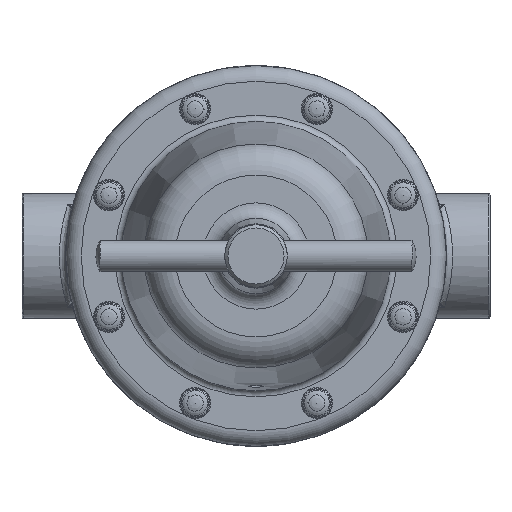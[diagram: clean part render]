
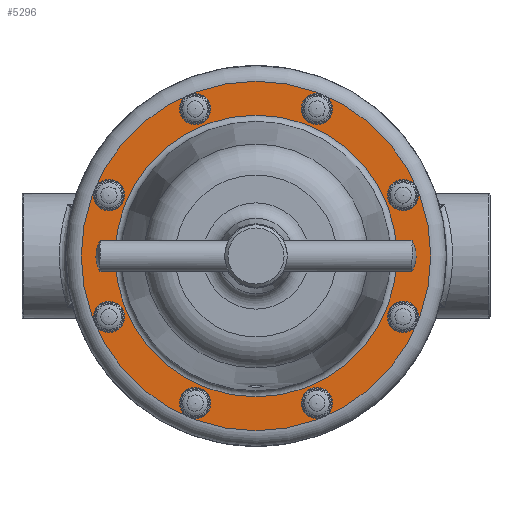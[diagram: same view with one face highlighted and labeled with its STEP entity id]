
A CAD part, left-side view. The second image highlights one B-rep face of the part: STEP entity #5296.
In plain terms, the highlighted planar face has unit normal (-1, 0, 0) as drawn and (0, 1, 0) by its records, which use the part's own axes.
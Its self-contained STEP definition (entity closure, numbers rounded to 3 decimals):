
#228=PLANE('',#5865);
#523=FACE_BOUND('',#1169,.T.);
#524=FACE_BOUND('',#1170,.T.);
#525=FACE_BOUND('',#1171,.T.);
#526=FACE_BOUND('',#1172,.T.);
#527=FACE_BOUND('',#1173,.T.);
#528=FACE_BOUND('',#1174,.T.);
#529=FACE_BOUND('',#1175,.T.);
#530=FACE_BOUND('',#1176,.T.);
#531=FACE_BOUND('',#1177,.T.);
#806=FACE_OUTER_BOUND('',#1168,.T.);
#1168=EDGE_LOOP('',(#4587));
#1169=EDGE_LOOP('',(#4588));
#1170=EDGE_LOOP('',(#4589));
#1171=EDGE_LOOP('',(#4590));
#1172=EDGE_LOOP('',(#4591));
#1173=EDGE_LOOP('',(#4592));
#1174=EDGE_LOOP('',(#4593));
#1175=EDGE_LOOP('',(#4594));
#1176=EDGE_LOOP('',(#4595));
#1177=EDGE_LOOP('',(#4596));
#2130=CIRCLE('',#5811,3.3);
#2132=CIRCLE('',#5814,3.3);
#2134=CIRCLE('',#5817,3.3);
#2136=CIRCLE('',#5820,3.3);
#2138=CIRCLE('',#5823,3.3);
#2140=CIRCLE('',#5826,3.3);
#2142=CIRCLE('',#5829,3.3);
#2144=CIRCLE('',#5832,3.3);
#2164=CIRCLE('',#5863,45.148);
#2166=CIRCLE('',#5866,56.);
#2576=VERTEX_POINT('',#13874);
#2578=VERTEX_POINT('',#13880);
#2580=VERTEX_POINT('',#13886);
#2582=VERTEX_POINT('',#13892);
#2584=VERTEX_POINT('',#13898);
#2586=VERTEX_POINT('',#13904);
#2588=VERTEX_POINT('',#13910);
#2590=VERTEX_POINT('',#13916);
#2607=VERTEX_POINT('',#13969);
#2608=VERTEX_POINT('',#13973);
#3251=EDGE_CURVE('',#2576,#2576,#2130,.T.);
#3254=EDGE_CURVE('',#2578,#2578,#2132,.T.);
#3257=EDGE_CURVE('',#2580,#2580,#2134,.T.);
#3260=EDGE_CURVE('',#2582,#2582,#2136,.T.);
#3263=EDGE_CURVE('',#2584,#2584,#2138,.T.);
#3266=EDGE_CURVE('',#2586,#2586,#2140,.T.);
#3269=EDGE_CURVE('',#2588,#2588,#2142,.T.);
#3272=EDGE_CURVE('',#2590,#2590,#2144,.T.);
#3297=EDGE_CURVE('',#2607,#2607,#2164,.T.);
#3299=EDGE_CURVE('',#2608,#2608,#2166,.T.);
#4587=ORIENTED_EDGE('',*,*,#3299,.F.);
#4588=ORIENTED_EDGE('',*,*,#3251,.T.);
#4589=ORIENTED_EDGE('',*,*,#3254,.T.);
#4590=ORIENTED_EDGE('',*,*,#3257,.T.);
#4591=ORIENTED_EDGE('',*,*,#3260,.T.);
#4592=ORIENTED_EDGE('',*,*,#3263,.T.);
#4593=ORIENTED_EDGE('',*,*,#3266,.T.);
#4594=ORIENTED_EDGE('',*,*,#3269,.T.);
#4595=ORIENTED_EDGE('',*,*,#3272,.T.);
#4596=ORIENTED_EDGE('',*,*,#3297,.T.);
#5296=ADVANCED_FACE('',(#806,#523,#524,#525,#526,#527,#528,#529,#530,#531),
#228,.T.);
#5811=AXIS2_PLACEMENT_3D('',#13875,#6880,#6881);
#5814=AXIS2_PLACEMENT_3D('',#13881,#6887,#6888);
#5817=AXIS2_PLACEMENT_3D('',#13887,#6894,#6895);
#5820=AXIS2_PLACEMENT_3D('',#13893,#6901,#6902);
#5823=AXIS2_PLACEMENT_3D('',#13899,#6908,#6909);
#5826=AXIS2_PLACEMENT_3D('',#13905,#6915,#6916);
#5829=AXIS2_PLACEMENT_3D('',#13911,#6922,#6923);
#5832=AXIS2_PLACEMENT_3D('',#13917,#6929,#6930);
#5863=AXIS2_PLACEMENT_3D('',#13970,#6996,#6997);
#5865=AXIS2_PLACEMENT_3D('',#13972,#7000,#7001);
#5866=AXIS2_PLACEMENT_3D('',#13974,#7002,#7003);
#6880=DIRECTION('center_axis',(0.,-1.,0.));
#6881=DIRECTION('ref_axis',(0.707,0.,-0.707));
#6887=DIRECTION('center_axis',(0.,-1.,0.));
#6888=DIRECTION('ref_axis',(0.,0.,-1.));
#6894=DIRECTION('center_axis',(0.,-1.,0.));
#6895=DIRECTION('ref_axis',(-0.707,0.,-0.707));
#6901=DIRECTION('center_axis',(0.,-1.,0.));
#6902=DIRECTION('ref_axis',(-1.,0.,0.));
#6908=DIRECTION('center_axis',(0.,-1.,0.));
#6909=DIRECTION('ref_axis',(-0.707,0.,0.707));
#6915=DIRECTION('center_axis',(0.,-1.,0.));
#6916=DIRECTION('ref_axis',(0.,0.,1.));
#6922=DIRECTION('center_axis',(0.,-1.,0.));
#6923=DIRECTION('ref_axis',(0.707,0.,0.707));
#6929=DIRECTION('center_axis',(0.,-1.,0.));
#6930=DIRECTION('ref_axis',(1.,0.,0.));
#6996=DIRECTION('center_axis',(0.,-1.,0.));
#6997=DIRECTION('ref_axis',(1.,0.,0.));
#7000=DIRECTION('center_axis',(0.,1.,0.));
#7001=DIRECTION('ref_axis',(0.,0.,1.));
#7002=DIRECTION('center_axis',(0.,-1.,0.));
#7003=DIRECTION('ref_axis',(1.,0.,0.));
#13874=CARTESIAN_POINT('',(44.784,8.,21.85));
#13875=CARTESIAN_POINT('Origin',(47.118,8.,19.517));
#13880=CARTESIAN_POINT('',(47.118,8.,-16.217));
#13881=CARTESIAN_POINT('Origin',(47.118,8.,-19.517));
#13886=CARTESIAN_POINT('',(21.85,8.,-44.784));
#13887=CARTESIAN_POINT('Origin',(19.517,8.,-47.118));
#13892=CARTESIAN_POINT('',(-16.217,8.,-47.118));
#13893=CARTESIAN_POINT('Origin',(-19.517,8.,-47.118));
#13898=CARTESIAN_POINT('',(-44.784,8.,-21.85));
#13899=CARTESIAN_POINT('Origin',(-47.118,8.,-19.517));
#13904=CARTESIAN_POINT('',(-47.118,8.,16.217));
#13905=CARTESIAN_POINT('Origin',(-47.118,8.,19.517));
#13910=CARTESIAN_POINT('',(-21.85,8.,44.784));
#13911=CARTESIAN_POINT('Origin',(-19.517,8.,47.118));
#13916=CARTESIAN_POINT('',(16.217,8.,47.118));
#13917=CARTESIAN_POINT('Origin',(19.517,8.,47.118));
#13969=CARTESIAN_POINT('',(0.,8.,45.148));
#13970=CARTESIAN_POINT('Origin',(0.,8.,0.));
#13972=CARTESIAN_POINT('Origin',(50.574,8.,0.));
#13973=CARTESIAN_POINT('',(0.,8.,56.));
#13974=CARTESIAN_POINT('Origin',(0.,8.,0.));
